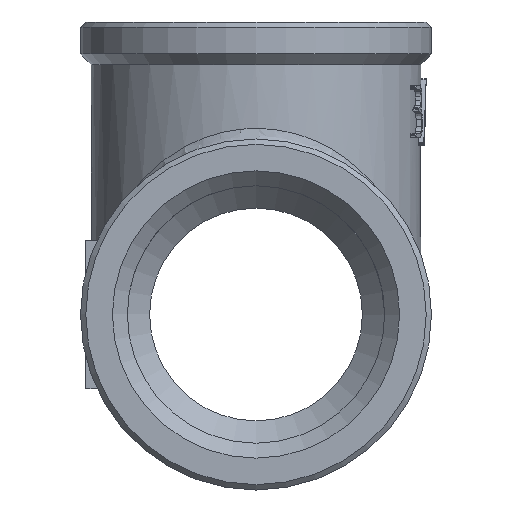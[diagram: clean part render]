
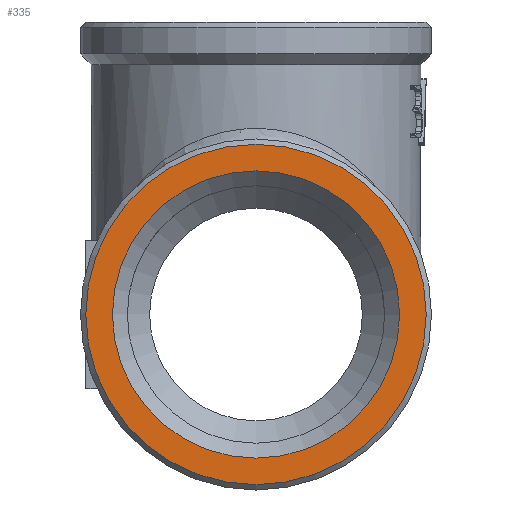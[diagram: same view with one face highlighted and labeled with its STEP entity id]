
A CAD part, front view. The second image highlights one B-rep face of the part: STEP entity #335.
In plain terms, the highlighted planar face has unit normal (0, -1, 0).
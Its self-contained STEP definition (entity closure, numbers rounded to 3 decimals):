
#335=ADVANCED_FACE('',(#2727,#2729),#2731,.F.);
#2727=FACE_BOUND('',#2728,.T.);
#2728=EDGE_LOOP('',(#5429));
#2729=FACE_BOUND('',#2730,.T.);
#2730=EDGE_LOOP('',(#5430));
#2731=PLANE('',#2732);
#2732=AXIS2_PLACEMENT_3D('',#2733,#2734,#2735);
#2733=CARTESIAN_POINT('',(0.,-27.5,0.));
#2734=DIRECTION('',(0.,1.,0.));
#2735=DIRECTION('',(-1.,0.,0.));
#5429=ORIENTED_EDGE('',*,*,#6777,.T.);
#5430=ORIENTED_EDGE('',*,*,#6810,.T.);
#6777=EDGE_CURVE('',#8420,#8420,#8421,.T.);
#6810=EDGE_CURVE('',#8456,#8456,#8457,.F.);
#8420=VERTEX_POINT('',#15946);
#8421=CIRCLE('',#15947,16.);
#8456=VERTEX_POINT('',#16051);
#8457=CIRCLE('',#16052,13.5);
#15946=CARTESIAN_POINT('',(0.,-27.5,16.));
#15947=AXIS2_PLACEMENT_3D('',#15948,#15949,#15950);
#15948=CARTESIAN_POINT('',(0.,-27.5,0.));
#15949=DIRECTION('',(0.,-1.,0.));
#15950=DIRECTION('',(0.,0.,1.));
#16051=CARTESIAN_POINT('',(13.5,-27.5,0.));
#16052=AXIS2_PLACEMENT_3D('',#16053,#16054,#16055);
#16053=CARTESIAN_POINT('',(0.,-27.5,0.));
#16054=DIRECTION('',(0.,-1.,0.));
#16055=DIRECTION('',(1.,0.,0.));
